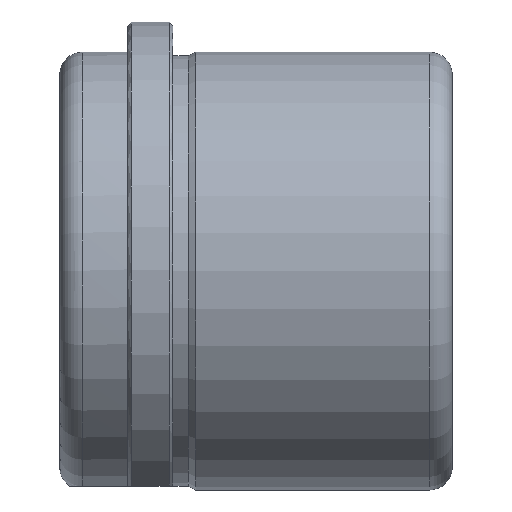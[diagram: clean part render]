
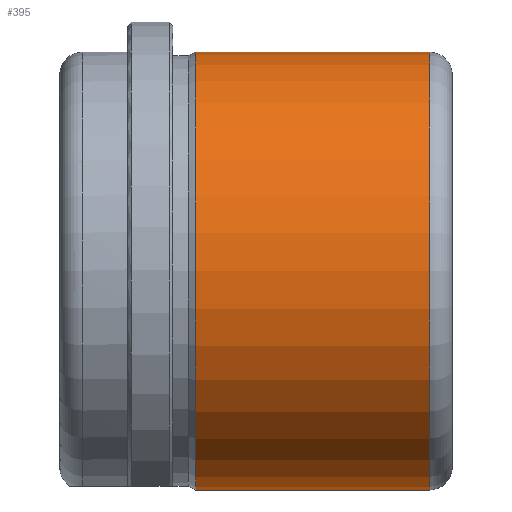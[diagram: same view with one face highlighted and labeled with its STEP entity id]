
A CAD part, top view. The second image highlights one B-rep face of the part: STEP entity #395.
In plain terms, the highlighted cylindrical face has radius 29 mm (diameter 58 mm), a full revolution.
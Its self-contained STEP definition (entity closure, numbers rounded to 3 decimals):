
#40=LINE('',#606,#59);
#59=VECTOR('',#496,29.);
#78=CYLINDRICAL_SURFACE('',#441,29.);
#88=FACE_OUTER_BOUND('',#109,.T.);
#109=EDGE_LOOP('',(#256,#257,#258,#259,#260));
#134=CIRCLE('',#439,29.);
#135=CIRCLE('',#440,29.);
#136=CIRCLE('',#442,29.);
#158=VERTEX_POINT('',#599);
#159=VERTEX_POINT('',#601);
#160=VERTEX_POINT('',#605);
#195=EDGE_CURVE('',#158,#159,#134,.T.);
#196=EDGE_CURVE('',#159,#158,#135,.T.);
#197=EDGE_CURVE('',#159,#160,#40,.T.);
#198=EDGE_CURVE('',#160,#160,#136,.T.);
#256=ORIENTED_EDGE('',*,*,#196,.F.);
#257=ORIENTED_EDGE('',*,*,#197,.T.);
#258=ORIENTED_EDGE('',*,*,#198,.T.);
#259=ORIENTED_EDGE('',*,*,#197,.F.);
#260=ORIENTED_EDGE('',*,*,#195,.F.);
#395=ADVANCED_FACE('',(#88),#78,.T.);
#439=AXIS2_PLACEMENT_3D('',#602,#490,#491);
#440=AXIS2_PLACEMENT_3D('',#603,#492,#493);
#441=AXIS2_PLACEMENT_3D('',#604,#494,#495);
#442=AXIS2_PLACEMENT_3D('',#607,#497,#498);
#490=DIRECTION('center_axis',(1.,0.,0.));
#491=DIRECTION('ref_axis',(0.,-1.,0.));
#492=DIRECTION('center_axis',(1.,0.,0.));
#493=DIRECTION('ref_axis',(0.,-1.,0.));
#494=DIRECTION('center_axis',(1.,0.,0.));
#495=DIRECTION('ref_axis',(0.,1.,0.));
#496=DIRECTION('',(-1.,0.,0.));
#497=DIRECTION('center_axis',(1.,0.,0.));
#498=DIRECTION('ref_axis',(0.,0.,-1.));
#599=CARTESIAN_POINT('',(49.,0.,29.));
#601=CARTESIAN_POINT('',(49.,-29.,0.));
#602=CARTESIAN_POINT('Origin',(49.,0.,0.));
#603=CARTESIAN_POINT('Origin',(49.,0.,0.));
#604=CARTESIAN_POINT('Origin',(35.,0.,0.));
#605=CARTESIAN_POINT('',(18.,-29.,0.));
#606=CARTESIAN_POINT('',(35.,-29.,0.));
#607=CARTESIAN_POINT('Origin',(18.,0.,0.));
